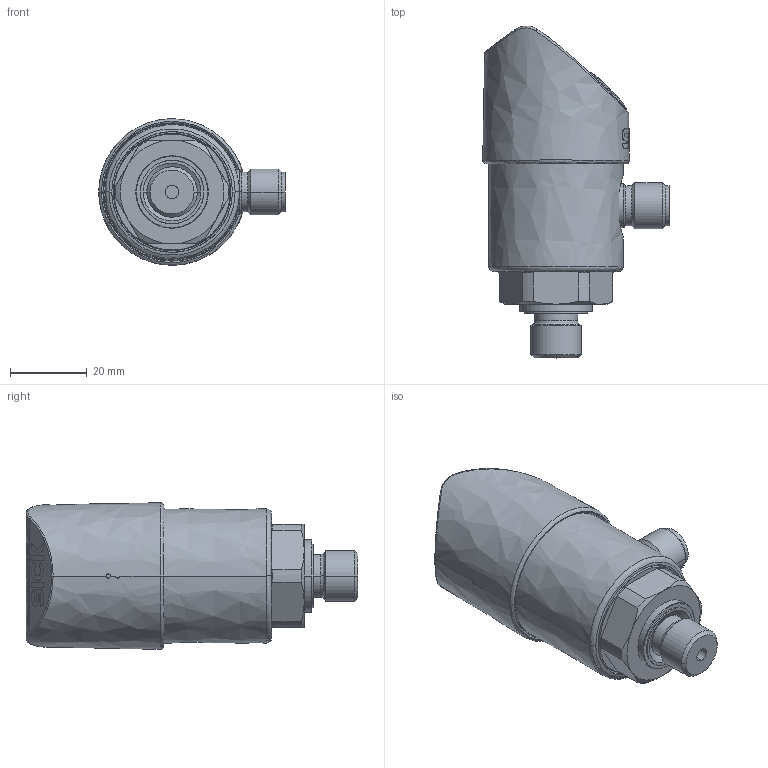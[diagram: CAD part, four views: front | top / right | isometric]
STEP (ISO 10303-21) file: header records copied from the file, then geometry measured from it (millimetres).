
FILE_DESCRIPTION (( 'STEP AP214' ), '1' );
FILE_NAME ('PBS2-######G1########-S304242.STEP', '2020-10-28T21:24:02', ( '' ), ( '' ), 'SwSTEP 2.0', 'SolidWorks 2019', '' );
FILE_SCHEMA (( 'AUTOMOTIVE_DESIGN' ));
Length unit declared in the file: millimetre
Products named in the file (1): PBS2-######G1########-S304242
Bounding box: 48.61 x 86.47 x 38.19 mm (x, y, z)
Volume: 67746.9 mm3; surface area: 11626.6 mm2
Topology: 5 solids, 5 shells, 517 faces, 1341 edges, 875 vertices
Faces by surface type: bspline 325, plane 192
Entity records: 26835 total; most frequent: CARTESIAN_POINT 15464, ORIENTED_EDGE 2682, EDGE_CURVE 1341, B_SPLINE_CURVE_WITH_KNOTS 949, VERTEX_POINT 875, DIRECTION 778, EDGE_LOOP 558, FACE_OUTER_BOUND 517
